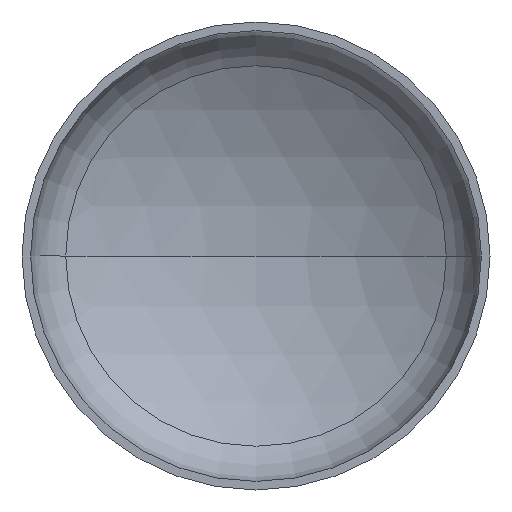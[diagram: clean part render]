
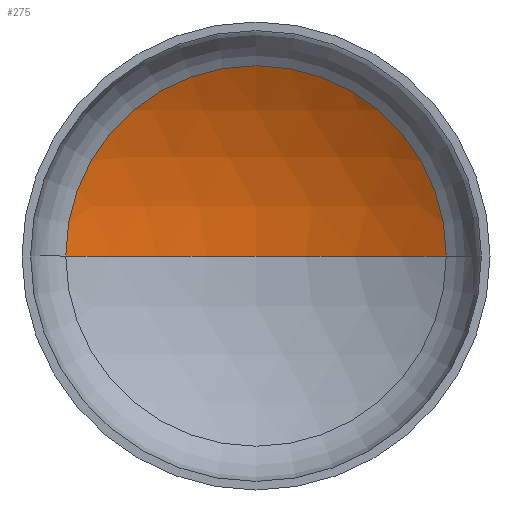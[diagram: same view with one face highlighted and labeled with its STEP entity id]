
A CAD part, front view. The second image highlights one B-rep face of the part: STEP entity #275.
In plain terms, the highlighted spherical face has radius 1520 mm.
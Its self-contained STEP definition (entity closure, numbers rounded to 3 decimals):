
#7 = DIRECTION ( 'NONE',  ( -1., 0., 0. ) ) ;
#10 = DIRECTION ( 'NONE',  ( 1., 0., 0. ) ) ;
#13 = AXIS2_PLACEMENT_3D ( 'NONE', #394, #175, #168 ) ;
#22 = DIRECTION ( 'NONE',  ( 0., 0., 1. ) ) ;
#28 = CARTESIAN_POINT ( 'NONE',  ( 0., -949.375, 0. ) ) ;
#30 = AXIS2_PLACEMENT_3D ( 'NONE', #28, #22, #10 ) ;
#36 = AXIS2_PLACEMENT_3D ( 'NONE', #399, #264, #7 ) ;
#37 = EDGE_LOOP ( 'NONE', ( #62, #75, #139 ) ) ;
#38 = AXIS2_PLACEMENT_3D ( 'NONE', #200, #187, #188 ) ;
#62 = ORIENTED_EDGE ( 'NONE', *, *, #90, .F. ) ;
#75 = ORIENTED_EDGE ( 'NONE', *, *, #82, .T. ) ;
#80 = EDGE_CURVE ( 'NONE', #247, #108, #225, .T. ) ;
#82 = EDGE_CURVE ( 'NONE', #136, #247, #162, .T. ) ;
#90 = EDGE_CURVE ( 'NONE', #136, #108, #405, .T. ) ;
#108 = VERTEX_POINT ( 'NONE', #259 ) ;
#129 = FACE_OUTER_BOUND ( 'NONE', #37, .T. ) ;
#136 = VERTEX_POINT ( 'NONE', #192 ) ;
#139 = ORIENTED_EDGE ( 'NONE', *, *, #80, .T. ) ;
#162 = CIRCLE ( 'NONE', #36, 1520. ) ;
#168 = DIRECTION ( 'NONE',  ( -1., 0., 0. ) ) ;
#172 = CARTESIAN_POINT ( 'NONE',  ( 772.358, 359.771, 0. ) ) ;
#175 = DIRECTION ( 'NONE',  ( 0., 0., -1. ) ) ;
#187 = DIRECTION ( 'NONE',  ( 0., -1., 0. ) ) ;
#188 = DIRECTION ( 'NONE',  ( 1., 0., 0. ) ) ;
#192 = CARTESIAN_POINT ( 'NONE',  ( 0., 570.625, 0. ) ) ;
#200 = CARTESIAN_POINT ( 'NONE',  ( 0., 359.771, 0. ) ) ;
#203 = SPHERICAL_SURFACE ( 'NONE', #13, 1520. ) ;
#225 = CIRCLE ( 'NONE', #38, 772.358 ) ;
#247 = VERTEX_POINT ( 'NONE', #172 ) ;
#259 = CARTESIAN_POINT ( 'NONE',  ( -772.358, 359.771, 0. ) ) ;
#264 = DIRECTION ( 'NONE',  ( 0., 0., -1. ) ) ;
#275 = ADVANCED_FACE ( 'NONE', ( #129 ), #203, .F. ) ;
#394 = CARTESIAN_POINT ( 'NONE',  ( 0., -949.375, 0. ) ) ;
#399 = CARTESIAN_POINT ( 'NONE',  ( 0., -949.375, 0. ) ) ;
#405 = CIRCLE ( 'NONE', #30, 1520. ) ;
